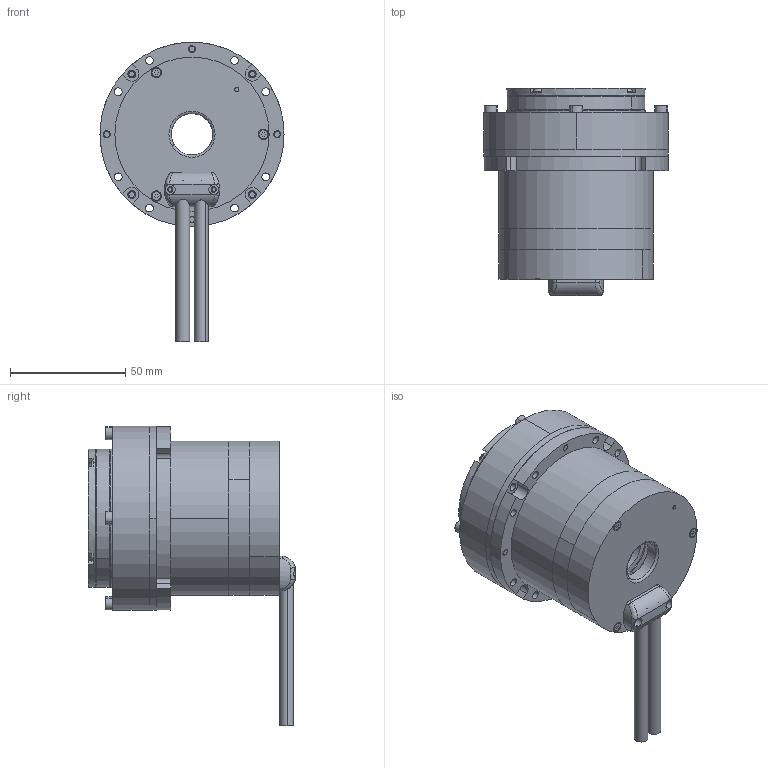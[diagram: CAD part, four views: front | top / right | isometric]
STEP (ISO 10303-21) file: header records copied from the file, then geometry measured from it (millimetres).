
FILE_DESCRIPTION (( 'STEP AP214' ), '1' );
FILE_NAME ('RH-17-N_B.STEP', '2024-05-22T00:55:19', ( '' ), ( '' ), 'SwSTEP 2.0', 'SolidWorks 2020', '' );
FILE_SCHEMA (( 'AUTOMOTIVE_DESIGN' ));
Length unit declared in the file: millimetre
Products named in the file (1): RH-17-N_B
Bounding box: 80 x 90 x 130.13 mm (x, y, z)
Surface area: 56928.7 mm2 (no closed solid volume)
Topology: 0 solids, 204 shells, 653 faces, 3117 edges, 2665 vertices
Faces by surface type: plane 326, cylinder 209, bspline 85, torus 16, cone 10, sphere 7
Entity records: 42174 total; most frequent: CARTESIAN_POINT 11231, DIRECTION 4386, ORIENTED_EDGE 4056, EDGE_CURVE 3110, VERTEX_POINT 2665, LINE 1700, VECTOR 1700, AXIS2_PLACEMENT_3D 1343
